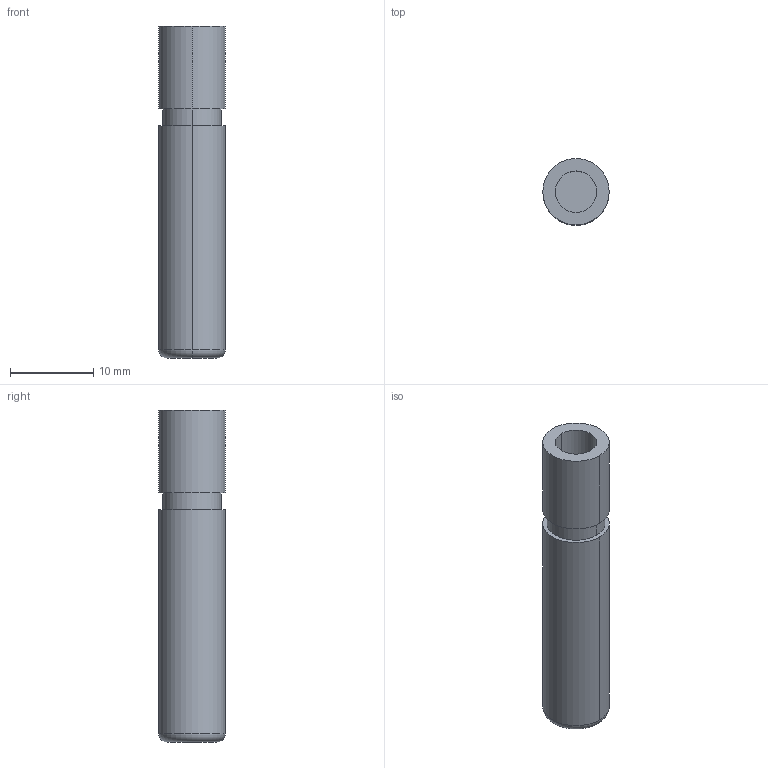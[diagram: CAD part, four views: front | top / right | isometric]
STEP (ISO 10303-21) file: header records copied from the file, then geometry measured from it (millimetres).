
FILE_DESCRIPTION(/* description */ (''),/* implementation_level */ '2;1');
FILE_NAME(/* name */ '3d_sgpn8-40_00276_r00.stp',/* time_stamp */ '2011-01-10T14:11:06+09:00',/* author */ ('MISUMI'),/* organization */ (''),/* preprocessor_version */ 'ST-DEVELOPER v11',/* originating_system */ 'UGS - NX 5.0',/* authorisation */ '');
FILE_SCHEMA (('CONFIG_CONTROL_DESIGN'));
Length unit declared in the file: millimetre
Products named in the file (1): 3d_sgpn8-40_00276_r00
Bounding box: 8 x 8 x 40 mm (x, y, z)
Volume: 1746.3 mm3; surface area: 1300.4 mm2
Topology: 1 solids, 1 shells, 15 faces, 28 edges, 18 vertices
Faces by surface type: cylinder 8, plane 5, torus 2
Entity records: 472 total; most frequent: DIRECTION 80, CARTESIAN_POINT 62, ORIENTED_EDGE 56, AXIS2_PLACEMENT_3D 36, EDGE_CURVE 28, CIRCLE 20, EDGE_LOOP 18, VERTEX_POINT 18
